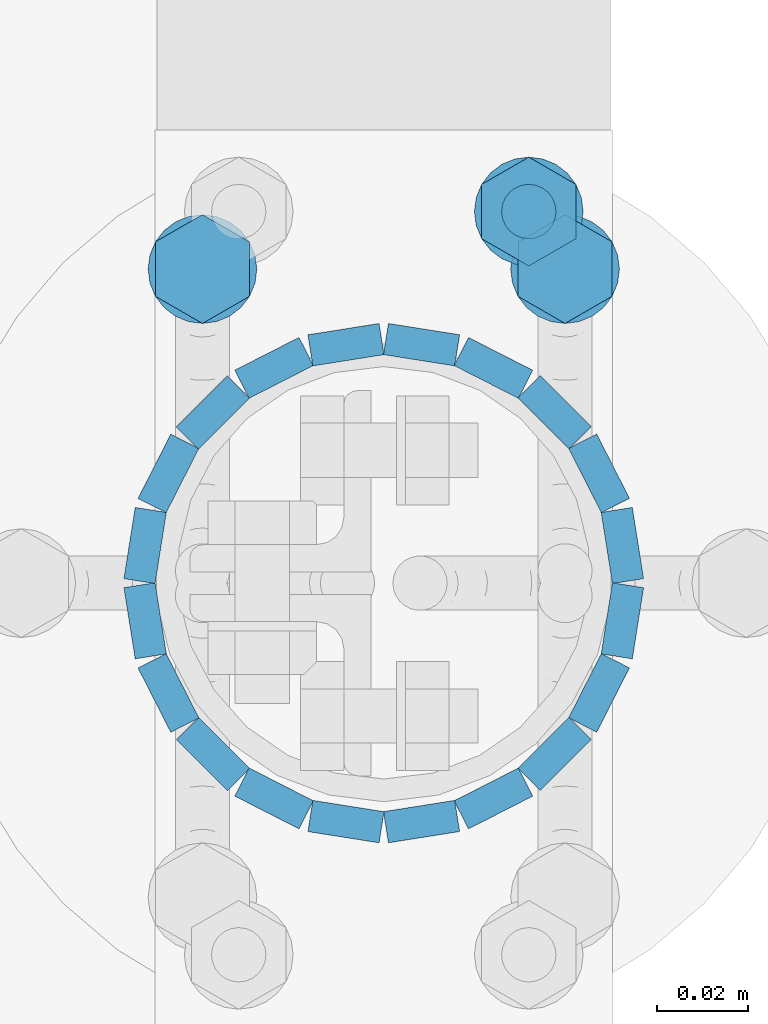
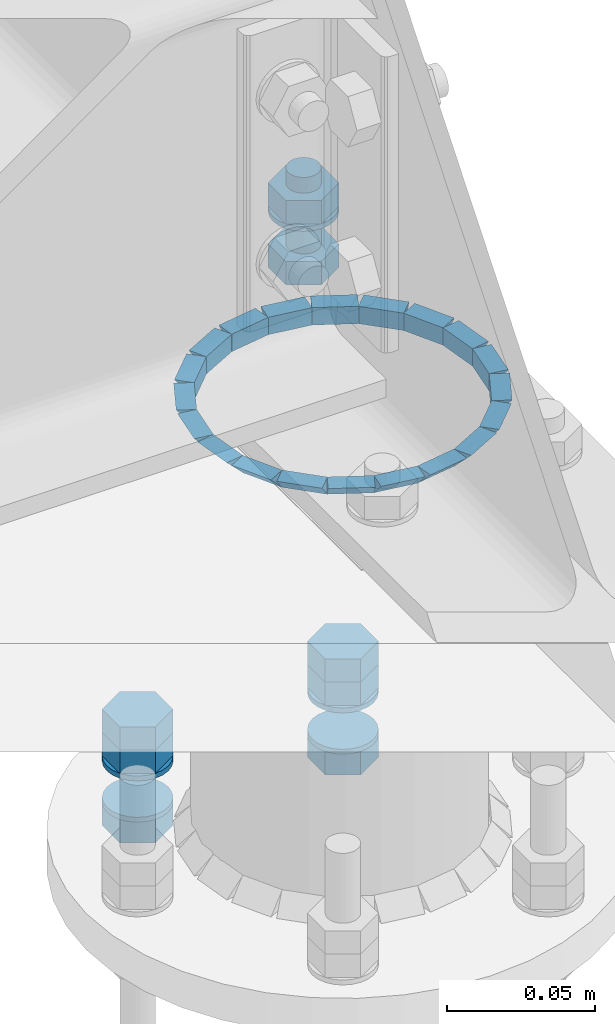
# One storey, part 82 of 84: 40 fasteners, 14 mechanical fasteners.
"""IFC4 building model written with IfcOpenShell, lengths in metres."""

from ifc_helpers import new_model, si_unit, frame, origin_with_axes, place, context, project, spatial, polyline, outline, extrude, type_object, element, save


model = new_model("IFC4")

# Units and contexts
model_context = context("Model", 3, precision=1e-05, world=origin_with_axes())
ifc_project = project(units=[si_unit("LENGTHUNIT", "METRE"), si_unit("AREAUNIT", "SQUARE_METRE"), si_unit("VOLUMEUNIT", "CUBIC_METRE"), si_unit("MASSUNIT", "GRAM", prefix="KILO"), si_unit("TIMEUNIT", "SECOND"), si_unit("PLANEANGLEUNIT", "RADIAN"), si_unit("SOLIDANGLEUNIT", "STERADIAN"), si_unit("THERMODYNAMICTEMPERATUREUNIT", "DEGREE_CELSIUS")], contexts=[model_context])

# Site, building, storey
placement_1 = place(None, origin_with_axes())
site = spatial("IfcSite", under=ifc_project, at=placement_1, Name="Italia", CompositionType="ELEMENT")
building = spatial("IfcBuilding", under=site, at=placement_1, Name="Tettoia", CompositionType="ELEMENT")
storey_placement = place(None, frame((0.0, 0.0, 4.199999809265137), z_axis=(0.0, 0.0, 1.0), x_axis=(1.0, 0.0, 0.0)))
storey = spatial("IfcBuildingStorey", under=building, at=storey_placement, Name="Storey 1", CompositionType="ELEMENT", Elevation=4.199999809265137)

# Mechanical fasteners
mechanical_fastener_type_1 = type_object("IfcMechanicalFastenerType", Name="Collegamento -015_0115", PredefinedType="BOLT")
placement_2 = place(placement_1, origin_with_axes())
mechanical_fastener_1_placement = place(placement_2, origin_with_axes())
element("IfcMechanicalFastener", 1, at=mechanical_fastener_1_placement, inside=storey, type_object=mechanical_fastener_type_1, Name="Collegamento -015_0115", NominalDiameter=0.0119991, context=model_context, shape_type="SweptSolid", body=[
    extrude(outline(polyline([(0.0, 0.0), (-0.0119991, 0.0), (-0.0179996, 0.0103922), (-0.0119991, 0.0207844), (0.0, 0.0207844), (0.00600052, 0.0103922), (0.0, 0.0)])), frame((4.12039, 19.8953, 4.017), z_axis=(0.0, 0.0, 1.0), x_axis=(0.0, 1.0, 0.0)), (0.0, 0.0, 1.0), 0.00959969),
])
mechanical_fastener_type_2 = type_object("IfcMechanicalFastenerType", Name="Collegamento -015_0115", PredefinedType="BOLT")
mechanical_fastener_2_placement = place(placement_2, origin_with_axes())
element("IfcMechanicalFastener", 2, at=mechanical_fastener_2_placement, inside=storey, type_object=mechanical_fastener_type_2, Name="Collegamento -015_0115", NominalDiameter=0.0119991, context=model_context, shape_type="SweptSolid", body=[
    extrude(outline(polyline([(0.0, 0.0), (-0.0119991, 0.0), (-0.0179996, 0.0103922), (-0.0119991, 0.0207844), (0.0, 0.0207844), (0.00600052, 0.0103922), (0.0, 0.0)])), frame((4.12039, 19.8953, 4.0266), z_axis=(0.0, 0.0, 1.0), x_axis=(0.0, 1.0, 0.0)), (0.0, 0.0, 1.0), 0.00960016),
])
mechanical_fastener_type_3 = type_object("IfcMechanicalFastenerType", Name="Collegamento -015_0115", PredefinedType="BOLT")
mechanical_fastener_3_placement = place(placement_2, origin_with_axes())
element("IfcMechanicalFastener", 3, at=mechanical_fastener_3_placement, inside=storey, type_object=mechanical_fastener_type_3, Name="Collegamento -015_0115", NominalDiameter=0.0119991, context=model_context, shape_type="SweptSolid", body=[
    extrude(outline(polyline([(0.0, 0.0), (-0.0119991, 0.0), (-0.0179996, 0.0103922), (-0.0119991, 0.0207844), (0.0, 0.0207844), (0.00600052, 0.0103922), (0.0, 0.0)])), frame((4.12039, 19.8953, 3.9884), z_axis=(0.0, 0.0, 1.0), x_axis=(0.0, 1.0, 0.0)), (0.0, 0.0, 1.0), 0.00959992),
])
mechanical_fastener_type_4 = type_object("IfcMechanicalFastenerType", Name="Collegamento -015_0115", PredefinedType="BOLT")
mechanical_fastener_4_placement = place(placement_2, origin_with_axes())
element("IfcMechanicalFastener", 4, at=mechanical_fastener_4_placement, inside=storey, type_object=mechanical_fastener_type_4, Name="Collegamento -015_0115", NominalDiameter=0.024, context=model_context, shape_type="SweptSolid", body=[
    extrude(outline(polyline([(0.0, 0.0), (-0.000408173, -0.00310564), (-0.00160599, -0.00600004), (-0.00351334, -0.00848532), (-0.00599861, -0.0103922), (-0.00889397, -0.011591), (-0.0119991, -0.0120001), (-0.0151043, -0.011591), (-0.0179996, -0.0103922), (-0.0204849, -0.00848532), (-0.0223923, -0.00600004), (-0.0235901, -0.00310564), (-0.0239983, 0.0), (-0.0235901, 0.00310564), (-0.0223923, 0.00600004), (-0.0204849, 0.00848532), (-0.0179996, 0.0103922), (-0.0151043, 0.011591), (-0.0119991, 0.0120001), (-0.00889397, 0.011591), (-0.00599861, 0.0103922), (-0.00351334, 0.00848532), (-0.00160599, 0.00600004), (-0.000408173, 0.00310564), (0.0, 0.0)])), frame((4.11, 19.9013, 4.015), z_axis=(0.0, 0.0, 1.0), x_axis=(0.0, 1.0, 0.0)), (0.0, 0.0, 1.0), 0.00200033),
])
mechanical_fastener_type_5 = type_object("IfcMechanicalFastenerType", Name="Collegamento -015_0115", PredefinedType="BOLT")
mechanical_fastener_5_placement = place(placement_2, origin_with_axes())
element("IfcMechanicalFastener", 5, at=mechanical_fastener_5_placement, inside=storey, type_object=mechanical_fastener_type_5, Name="Collegamento -015_0115", NominalDiameter=0.024, context=model_context, shape_type="SweptSolid", body=[
    extrude(outline(polyline([(0.0, 0.0), (-0.000408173, -0.00310564), (-0.00160599, -0.00600004), (-0.00351334, -0.00848532), (-0.00599861, -0.0103922), (-0.00889397, -0.011591), (-0.0119991, -0.0120001), (-0.0151043, -0.011591), (-0.0179996, -0.0103922), (-0.0204849, -0.00848532), (-0.0223923, -0.00600004), (-0.0235901, -0.00310564), (-0.0239983, 0.0), (-0.0235901, 0.00310564), (-0.0223923, 0.00600004), (-0.0204849, 0.00848532), (-0.0179996, 0.0103922), (-0.0151043, 0.011591), (-0.0119991, 0.0120001), (-0.00889397, 0.011591), (-0.00599861, 0.0103922), (-0.00351334, 0.00848532), (-0.00160599, 0.00600004), (-0.000408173, 0.00310564), (0.0, 0.0)])), frame((4.11, 19.9013, 3.998), z_axis=(0.0, 0.0, 1.0), x_axis=(0.0, 1.0, 0.0)), (0.0, 0.0, 1.0), 0.00200009),
])
mechanical_fastener_type_6 = type_object("IfcMechanicalFastenerType", Name="Collegamento -015_0115", PredefinedType="BOLT")
mechanical_fastener_6_placement = place(placement_2, origin_with_axes())
element("IfcMechanicalFastener", 6, at=mechanical_fastener_6_placement, inside=storey, type_object=mechanical_fastener_type_6, Name="Collegamento -015_0115", NominalDiameter=0.0119991, context=model_context, shape_type="SweptSolid", body=[
    extrude(outline(polyline([(0.0, 0.0), (-0.0119991, 0.0), (-0.0179996, 0.0103922), (-0.0119991, 0.0207844), (0.0, 0.0207844), (0.00600052, 0.0103922), (0.0, 0.0)])), frame((4.04039, 19.8953, 4.017), z_axis=(0.0, 0.0, 1.0), x_axis=(0.0, 1.0, 0.0)), (0.0, 0.0, 1.0), 0.00959969),
])
mechanical_fastener_type_7 = type_object("IfcMechanicalFastenerType", Name="Collegamento -015_0115", PredefinedType="BOLT")
mechanical_fastener_7_placement = place(placement_2, origin_with_axes())
element("IfcMechanicalFastener", 7, at=mechanical_fastener_7_placement, inside=storey, type_object=mechanical_fastener_type_7, Name="Collegamento -015_0115", NominalDiameter=0.0119991, context=model_context, shape_type="SweptSolid", body=[
    extrude(outline(polyline([(0.0, 0.0), (-0.0119991, 0.0), (-0.0179996, 0.0103922), (-0.0119991, 0.0207844), (0.0, 0.0207844), (0.00600052, 0.0103922), (0.0, 0.0)])), frame((4.04039, 19.8953, 4.0266), z_axis=(0.0, 0.0, 1.0), x_axis=(0.0, 1.0, 0.0)), (0.0, 0.0, 1.0), 0.00960016),
])
mechanical_fastener_type_8 = type_object("IfcMechanicalFastenerType", Name="Collegamento -015_0115", PredefinedType="BOLT")
mechanical_fastener_8_placement = place(placement_2, origin_with_axes())
element("IfcMechanicalFastener", 8, at=mechanical_fastener_8_placement, inside=storey, type_object=mechanical_fastener_type_8, Name="Collegamento -015_0115", NominalDiameter=0.0119991, context=model_context, shape_type="SweptSolid", body=[
    extrude(outline(polyline([(0.0, 0.0), (-0.0119991, 0.0), (-0.0179996, 0.0103922), (-0.0119991, 0.0207844), (0.0, 0.0207844), (0.00600052, 0.0103922), (0.0, 0.0)])), frame((4.04039, 19.8953, 3.9884), z_axis=(0.0, 0.0, 1.0), x_axis=(0.0, 1.0, 0.0)), (0.0, 0.0, 1.0), 0.00959992),
])
mechanical_fastener_type_9 = type_object("IfcMechanicalFastenerType", Name="Collegamento -015_0115", PredefinedType="BOLT")
mechanical_fastener_9_placement = place(placement_2, origin_with_axes())
element("IfcMechanicalFastener", 9, at=mechanical_fastener_9_placement, inside=storey, type_object=mechanical_fastener_type_9, Name="Collegamento -015_0115", NominalDiameter=0.024, context=model_context, shape_type="SweptSolid", body=[
    extrude(outline(polyline([(0.0, 0.0), (-0.000408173, -0.00310564), (-0.00160599, -0.00600004), (-0.00351334, -0.00848532), (-0.00599861, -0.0103922), (-0.00889397, -0.011591), (-0.0119991, -0.0120001), (-0.0151043, -0.011591), (-0.0179996, -0.0103922), (-0.0204849, -0.00848532), (-0.0223923, -0.00600004), (-0.0235901, -0.00310564), (-0.0239983, 0.0), (-0.0235901, 0.00310564), (-0.0223923, 0.00600004), (-0.0204849, 0.00848532), (-0.0179996, 0.0103922), (-0.0151043, 0.011591), (-0.0119991, 0.0120001), (-0.00889397, 0.011591), (-0.00599861, 0.0103922), (-0.00351334, 0.00848532), (-0.00160599, 0.00600004), (-0.000408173, 0.00310564), (0.0, 0.0)])), frame((4.03, 19.9013, 4.015), z_axis=(0.0, 0.0, 1.0), x_axis=(0.0, 1.0, 0.0)), (0.0, 0.0, 1.0), 0.00200033),
])
mechanical_fastener_type_10 = type_object("IfcMechanicalFastenerType", Name="Collegamento -015_0115", PredefinedType="BOLT")
mechanical_fastener_10_placement = place(placement_2, origin_with_axes())
element("IfcMechanicalFastener", 10, at=mechanical_fastener_10_placement, inside=storey, type_object=mechanical_fastener_type_10, Name="Collegamento -015_0115", NominalDiameter=0.024, context=model_context, shape_type="SweptSolid", body=[
    extrude(outline(polyline([(0.0, 0.0), (-0.000408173, -0.00310564), (-0.00160599, -0.00600004), (-0.00351334, -0.00848532), (-0.00599861, -0.0103922), (-0.00889397, -0.011591), (-0.0119991, -0.0120001), (-0.0151043, -0.011591), (-0.0179996, -0.0103922), (-0.0204849, -0.00848532), (-0.0223923, -0.00600004), (-0.0235901, -0.00310564), (-0.0239983, 0.0), (-0.0235901, 0.00310564), (-0.0223923, 0.00600004), (-0.0204849, 0.00848532), (-0.0179996, 0.0103922), (-0.0151043, 0.011591), (-0.0119991, 0.0120001), (-0.00889397, 0.011591), (-0.00599861, 0.0103922), (-0.00351334, 0.00848532), (-0.00160599, 0.00600004), (-0.000408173, 0.00310564), (0.0, 0.0)])), frame((4.03, 19.9013, 3.998), z_axis=(0.0, 0.0, 1.0), x_axis=(0.0, 1.0, 0.0)), (0.0, 0.0, 1.0), 0.00200009),
])

# Fasteners
fastener_type_1 = type_object("IfcFastenerType", Name="Collegamento 0115_-015", PredefinedType="WELD")
fastener_1_placement = place(placement_2, origin_with_axes())
element("IfcFastener", 11, at=fastener_1_placement, inside=storey, type_object=fastener_type_1, Name="Collegamento 0115_-015", context=model_context, shape_type="SweptSolid", body=[
    extrude(outline(polyline([(0.0, 0.0), (-0.00695801, -0.00717354), (-0.00695801, 0.0), (0.0, 0.0)])), frame((4.07103, 19.8773, 4.19505), z_axis=(0.987689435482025, -0.156427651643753, 0.0), x_axis=(0.156427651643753, 0.987689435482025, 0.0)), (0.0, 0.0, 1.0), 0.0158999),
])
fastener_type_2 = type_object("IfcFastenerType", Name="Collegamento 0115_-015", PredefinedType="WELD")
fastener_2_placement = place(placement_2, origin_with_axes())
element("IfcFastener", 12, at=fastener_2_placement, inside=storey, type_object=fastener_type_2, Name="Collegamento 0115_-015", context=model_context, shape_type="SweptSolid", body=[
    extrude(outline(polyline([(0.0, 0.0), (-0.00695801, -0.00717354), (-0.00695801, 0.0), (0.0, 0.0)])), frame((4.0887, 19.8742, 4.19505), z_axis=(0.890982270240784, -0.454038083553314, 0.0), x_axis=(0.454038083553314, 0.890982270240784, 0.0)), (0.0, 0.0, 1.0), 0.0159002),
])
fastener_type_3 = type_object("IfcFastenerType", Name="Collegamento 0115_-015", PredefinedType="WELD")
fastener_3_placement = place(placement_2, origin_with_axes())
element("IfcFastener", 13, at=fastener_3_placement, inside=storey, type_object=fastener_type_3, Name="Collegamento 0115_-015", context=model_context, shape_type="SweptSolid", body=[
    extrude(outline(polyline([(0.0, 0.0), (-0.00695801, -0.00717354), (-0.00695801, 0.0), (0.0, 0.0)])), frame((4.10453, 19.8658, 4.19505), z_axis=(0.707136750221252, -0.707076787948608, 0.0), x_axis=(0.707076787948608, 0.707136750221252, 0.0)), (0.0, 0.0, 1.0), 0.0158991),
])
fastener_type_4 = type_object("IfcFastenerType", Name="Collegamento 0115_-015", PredefinedType="WELD")
fastener_4_placement = place(placement_2, origin_with_axes())
element("IfcFastener", 14, at=fastener_4_placement, inside=storey, type_object=fastener_type_4, Name="Collegamento 0115_-015", context=model_context, shape_type="SweptSolid", body=[
    extrude(outline(polyline([(0.0, 0.0), (-0.00695801, -0.00717354), (-0.00695801, 0.0), (0.0, 0.0)])), frame((4.11699, 19.8529, 4.19505), z_axis=(0.453966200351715, -0.891018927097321, 0.0), x_axis=(0.891018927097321, 0.453966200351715, 0.0)), (0.0, 0.0, 1.0), 0.0159007),
])
fastener_type_5 = type_object("IfcFastenerType", Name="Collegamento 0115_-015", PredefinedType="WELD")
fastener_5_placement = place(placement_2, origin_with_axes())
element("IfcFastener", 15, at=fastener_5_placement, inside=storey, type_object=fastener_type_5, Name="Collegamento 0115_-015", context=model_context, shape_type="SweptSolid", body=[
    extrude(outline(polyline([(0.0, 0.0), (-0.00695753, -0.00717354), (-0.00695753, 0.0), (0.0, 0.0)])), frame((4.12484, 19.8367, 4.19505), z_axis=(0.156436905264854, -0.987687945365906, 0.0), x_axis=(0.987687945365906, 0.156436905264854, 0.0)), (0.0, 0.0, 1.0), 0.015899),
])
fastener_type_6 = type_object("IfcFastenerType", Name="Collegamento 0115_-015", PredefinedType="WELD")
fastener_6_placement = place(placement_2, origin_with_axes())
element("IfcFastener", 16, at=fastener_6_placement, inside=storey, type_object=fastener_type_6, Name="Collegamento 0115_-015", context=model_context, shape_type="SweptSolid", body=[
    extrude(outline(polyline([(0.0, 0.0), (-0.00695801, -0.00717354), (-0.00695801, 0.0), (0.0, 0.0)])), frame((4.12733, 19.819, 4.19505), z_axis=(-0.156436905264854, -0.987687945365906, 0.0), x_axis=(0.987687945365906, -0.156436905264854, 0.0)), (0.0, 0.0, 1.0), 0.015899),
])
fastener_type_7 = type_object("IfcFastenerType", Name="Collegamento 0115_-015", PredefinedType="WELD")
fastener_7_placement = place(placement_2, origin_with_axes())
element("IfcFastener", 17, at=fastener_7_placement, inside=storey, type_object=fastener_type_7, Name="Collegamento 0115_-015", context=model_context, shape_type="SweptSolid", body=[
    extrude(outline(polyline([(0.0, 0.0), (-0.00695848, -0.00717354), (-0.00695848, 0.0), (0.0, 0.0)])), frame((4.12421, 19.8013, 4.19505), z_axis=(-0.453966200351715, -0.891018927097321, 0.0), x_axis=(0.891018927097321, -0.453966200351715, 0.0)), (0.0, 0.0, 1.0), 0.0159007),
])
fastener_type_8 = type_object("IfcFastenerType", Name="Collegamento 0115_-015", PredefinedType="WELD")
fastener_8_placement = place(placement_2, origin_with_axes())
element("IfcFastener", 18, at=fastener_8_placement, inside=storey, type_object=fastener_type_8, Name="Collegamento 0115_-015", context=model_context, shape_type="SweptSolid", body=[
    extrude(outline(polyline([(0.0, 0.0), (-0.00695896, -0.00717354), (-0.00695896, 0.0), (0.0, 0.0)])), frame((4.11578, 19.7855, 4.19505), z_axis=(-0.707136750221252, -0.707076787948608, 0.0), x_axis=(0.707076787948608, -0.707136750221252, 0.0)), (0.0, 0.0, 1.0), 0.0158991),
])
fastener_type_9 = type_object("IfcFastenerType", Name="Collegamento 0115_-015", PredefinedType="WELD")
fastener_9_placement = place(placement_2, origin_with_axes())
element("IfcFastener", 19, at=fastener_9_placement, inside=storey, type_object=fastener_type_9, Name="Collegamento 0115_-015", context=model_context, shape_type="SweptSolid", body=[
    extrude(outline(polyline([(0.0, 0.0), (-0.00695801, -0.00717354), (-0.00695801, 0.0), (0.0, 0.0)])), frame((4.10286, 19.773, 4.19505), z_axis=(-0.890982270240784, -0.454038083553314, 0.0), x_axis=(0.454038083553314, -0.890982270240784, 0.0)), (0.0, 0.0, 1.0), 0.0159002),
])
fastener_type_10 = type_object("IfcFastenerType", Name="Collegamento 0115_-015", PredefinedType="WELD")
fastener_10_placement = place(placement_2, origin_with_axes())
element("IfcFastener", 20, at=fastener_10_placement, inside=storey, type_object=fastener_type_10, Name="Collegamento 0115_-015", context=model_context, shape_type="SweptSolid", body=[
    extrude(outline(polyline([(0.0, 0.0), (-0.00695801, -0.00717354), (-0.00695801, 0.0), (0.0, 0.0)])), frame((4.08674, 19.7652, 4.19505), z_axis=(-0.987689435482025, -0.156427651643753, 0.0), x_axis=(0.156427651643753, -0.987689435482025, 0.0)), (0.0, 0.0, 1.0), 0.0158999),
])
fastener_type_11 = type_object("IfcFastenerType", Name="Collegamento 0115_-015", PredefinedType="WELD")
fastener_11_placement = place(placement_2, origin_with_axes())
element("IfcFastener", 21, at=fastener_11_placement, inside=storey, type_object=fastener_type_11, Name="Collegamento 0115_-015", context=model_context, shape_type="SweptSolid", body=[
    extrude(outline(polyline([(0.0, 0.0), (-0.00695801, -0.00717354), (-0.00695801, 0.0), (0.0, 0.0)])), frame((4.06897, 19.7627, 4.19505), z_axis=(-0.987689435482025, 0.156427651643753, 0.0), x_axis=(-0.156427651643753, -0.987689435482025, 0.0)), (0.0, 0.0, 1.0), 0.0158999),
])
fastener_type_12 = type_object("IfcFastenerType", Name="Collegamento 0115_-015", PredefinedType="WELD")
fastener_12_placement = place(placement_2, origin_with_axes())
element("IfcFastener", 22, at=fastener_12_placement, inside=storey, type_object=fastener_type_12, Name="Collegamento 0115_-015", context=model_context, shape_type="SweptSolid", body=[
    extrude(outline(polyline([(0.0, 0.0), (-0.0069561, -0.00717354), (-0.0069561, 0.0), (0.0, 0.0)])), frame((4.0513, 19.7658, 4.19505), z_axis=(-0.890982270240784, 0.454038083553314, 0.0), x_axis=(-0.454038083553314, -0.890982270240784, 0.0)), (0.0, 0.0, 1.0), 0.0159002),
])
fastener_type_13 = type_object("IfcFastenerType", Name="Collegamento 0115_-015", PredefinedType="WELD")
fastener_13_placement = place(placement_2, origin_with_axes())
element("IfcFastener", 23, at=fastener_13_placement, inside=storey, type_object=fastener_type_13, Name="Collegamento 0115_-015", context=model_context, shape_type="SweptSolid", body=[
    extrude(outline(polyline([(0.0, 0.0), (-0.00695801, -0.00717354), (-0.00695801, 0.0), (0.0, 0.0)])), frame((4.03547, 19.7742, 4.19505), z_axis=(-0.707136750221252, 0.707076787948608, 0.0), x_axis=(-0.707076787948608, -0.707136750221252, 0.0)), (0.0, 0.0, 1.0), 0.0158991),
])
fastener_type_14 = type_object("IfcFastenerType", Name="Collegamento 0115_-015", PredefinedType="WELD")
fastener_14_placement = place(placement_2, origin_with_axes())
element("IfcFastener", 24, at=fastener_14_placement, inside=storey, type_object=fastener_type_14, Name="Collegamento 0115_-015", context=model_context, shape_type="SweptSolid", body=[
    extrude(outline(polyline([(0.0, 0.0), (-0.00695896, -0.00717354), (-0.00695896, 0.0), (0.0, 0.0)])), frame((4.02301, 19.7871, 4.19505), z_axis=(-0.453966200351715, 0.891018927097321, 0.0), x_axis=(-0.891018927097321, -0.453966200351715, 0.0)), (0.0, 0.0, 1.0), 0.0159007),
])
fastener_type_15 = type_object("IfcFastenerType", Name="Collegamento 0115_-015", PredefinedType="WELD")
fastener_15_placement = place(placement_2, origin_with_axes())
element("IfcFastener", 25, at=fastener_15_placement, inside=storey, type_object=fastener_type_15, Name="Collegamento 0115_-015", context=model_context, shape_type="SweptSolid", body=[
    extrude(outline(polyline([(0.0, 0.0), (-0.00695801, -0.00717354), (-0.00695801, 0.0), (0.0, 0.0)])), frame((4.01516, 19.8033, 4.19505), z_axis=(-0.156436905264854, 0.987687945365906, 0.0), x_axis=(-0.987687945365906, -0.156436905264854, 0.0)), (0.0, 0.0, 1.0), 0.015899),
])
fastener_type_16 = type_object("IfcFastenerType", Name="Collegamento 0115_-015", PredefinedType="WELD")
fastener_16_placement = place(placement_2, origin_with_axes())
element("IfcFastener", 26, at=fastener_16_placement, inside=storey, type_object=fastener_type_16, Name="Collegamento 0115_-015", context=model_context, shape_type="SweptSolid", body=[
    extrude(outline(polyline([(0.0, 0.0), (-0.00695848, -0.00717354), (-0.00695848, 0.0), (0.0, 0.0)])), frame((4.01267, 19.821, 4.19505), z_axis=(0.156436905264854, 0.987687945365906, 0.0), x_axis=(-0.987687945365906, 0.156436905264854, 0.0)), (0.0, 0.0, 1.0), 0.015899),
])
fastener_type_17 = type_object("IfcFastenerType", Name="Collegamento 0115_-015", PredefinedType="WELD")
fastener_17_placement = place(placement_2, origin_with_axes())
element("IfcFastener", 27, at=fastener_17_placement, inside=storey, type_object=fastener_type_17, Name="Collegamento 0115_-015", context=model_context, shape_type="SweptSolid", body=[
    extrude(outline(polyline([(0.0, 0.0), (-0.00695753, -0.00717354), (-0.00695753, 0.0), (0.0, 0.0)])), frame((4.01579, 19.8387, 4.19505), z_axis=(0.453966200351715, 0.891018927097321, 0.0), x_axis=(-0.891018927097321, 0.453966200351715, 0.0)), (0.0, 0.0, 1.0), 0.0159007),
])
fastener_type_18 = type_object("IfcFastenerType", Name="Collegamento 0115_-015", PredefinedType="WELD")
fastener_18_placement = place(placement_2, origin_with_axes())
element("IfcFastener", 28, at=fastener_18_placement, inside=storey, type_object=fastener_type_18, Name="Collegamento 0115_-015", context=model_context, shape_type="SweptSolid", body=[
    extrude(outline(polyline([(0.0, 0.0), (-0.00695801, -0.00717354), (-0.00695801, 0.0), (0.0, 0.0)])), frame((4.02422, 19.8545, 4.19505), z_axis=(0.707136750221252, 0.707076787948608, 0.0), x_axis=(-0.707076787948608, 0.707136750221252, 0.0)), (0.0, 0.0, 1.0), 0.0158991),
])
fastener_type_19 = type_object("IfcFastenerType", Name="Collegamento 0115_-015", PredefinedType="WELD")
fastener_19_placement = place(placement_2, origin_with_axes())
element("IfcFastener", 29, at=fastener_19_placement, inside=storey, type_object=fastener_type_19, Name="Collegamento 0115_-015", context=model_context, shape_type="SweptSolid", body=[
    extrude(outline(polyline([(0.0, 0.0), (-0.00695801, -0.00717354), (-0.00695801, 0.0), (0.0, 0.0)])), frame((4.03714, 19.867, 4.19505), z_axis=(0.890982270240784, 0.454038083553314, 0.0), x_axis=(-0.454038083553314, 0.890982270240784, 0.0)), (0.0, 0.0, 1.0), 0.0159002),
])
fastener_type_20 = type_object("IfcFastenerType", Name="Collegamento 0115_-015", PredefinedType="WELD")
fastener_20_placement = place(placement_2, origin_with_axes())
element("IfcFastener", 30, at=fastener_20_placement, inside=storey, type_object=fastener_type_20, Name="Collegamento 0115_-015", context=model_context, shape_type="SweptSolid", body=[
    extrude(outline(polyline([(0.0, 0.0), (-0.0069561, -0.00717354), (-0.0069561, 0.0), (0.0, 0.0)])), frame((4.05326, 19.8748, 4.19505), z_axis=(0.987689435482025, 0.156427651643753, 0.0), x_axis=(-0.156427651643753, 0.987689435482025, 0.0)), (0.0, 0.0, 1.0), 0.0158999),
])
fastener_type_21 = type_object("IfcFastenerType", Name="Collegamento 0115_-015", PredefinedType="WELD")
fastener_21_placement = place(placement_2, origin_with_axes())
element("IfcFastener", 31, at=fastener_21_placement, inside=storey, type_object=fastener_type_21, Name="Collegamento 0115_-015", context=model_context, shape_type="SweptSolid", body=[
    extrude(outline(polyline([(0.0, 0.0), (-0.00695801, -0.00717354), (-0.00695801, 0.0), (0.0, 0.0)])), frame((4.07103, 19.8773, 4.19505), z_axis=(0.987689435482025, -0.156427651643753, 0.0), x_axis=(0.156427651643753, 0.987689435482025, 0.0)), (0.0, 0.0, 1.0), 0.0158999),
])
fastener_type_22 = type_object("IfcFastenerType", Name="Collegamento 0115_-015", PredefinedType="WELD")
fastener_22_placement = place(placement_2, origin_with_axes())
element("IfcFastener", 32, at=fastener_22_placement, inside=storey, type_object=fastener_type_22, Name="Collegamento 0115_-015", context=model_context, shape_type="SweptSolid", body=[
    extrude(outline(polyline([(0.0, 0.0), (-0.00695801, -0.00717354), (-0.00695801, 0.0), (0.0, 0.0)])), frame((4.0887, 19.8742, 4.19505), z_axis=(0.890982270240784, -0.454038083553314, 0.0), x_axis=(0.454038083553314, 0.890982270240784, 0.0)), (0.0, 0.0, 1.0), 0.0159002),
])
fastener_type_23 = type_object("IfcFastenerType", Name="Collegamento 0115_-015", PredefinedType="WELD")
fastener_23_placement = place(placement_2, origin_with_axes())
element("IfcFastener", 33, at=fastener_23_placement, inside=storey, type_object=fastener_type_23, Name="Collegamento 0115_-015", context=model_context, shape_type="SweptSolid", body=[
    extrude(outline(polyline([(0.0, 0.0), (-0.00695801, -0.00717354), (-0.00695801, 0.0), (0.0, 0.0)])), frame((4.10453, 19.8658, 4.19505), z_axis=(0.707136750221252, -0.707076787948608, 0.0), x_axis=(0.707076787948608, 0.707136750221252, 0.0)), (0.0, 0.0, 1.0), 0.0158991),
])
fastener_type_24 = type_object("IfcFastenerType", Name="Collegamento 0115_-015", PredefinedType="WELD")
fastener_24_placement = place(placement_2, origin_with_axes())
element("IfcFastener", 34, at=fastener_24_placement, inside=storey, type_object=fastener_type_24, Name="Collegamento 0115_-015", context=model_context, shape_type="SweptSolid", body=[
    extrude(outline(polyline([(0.0, 0.0), (-0.00695801, -0.00717354), (-0.00695801, 0.0), (0.0, 0.0)])), frame((4.11699, 19.8529, 4.19505), z_axis=(0.453966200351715, -0.891018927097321, 0.0), x_axis=(0.891018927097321, 0.453966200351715, 0.0)), (0.0, 0.0, 1.0), 0.0159007),
])
fastener_type_25 = type_object("IfcFastenerType", Name="Collegamento 0115_-015", PredefinedType="WELD")
fastener_25_placement = place(placement_2, origin_with_axes())
element("IfcFastener", 35, at=fastener_25_placement, inside=storey, type_object=fastener_type_25, Name="Collegamento 0115_-015", context=model_context, shape_type="SweptSolid", body=[
    extrude(outline(polyline([(0.0, 0.0), (-0.00695753, -0.00717354), (-0.00695753, 0.0), (0.0, 0.0)])), frame((4.12484, 19.8367, 4.19505), z_axis=(0.156436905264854, -0.987687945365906, 0.0), x_axis=(0.987687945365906, 0.156436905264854, 0.0)), (0.0, 0.0, 1.0), 0.015899),
])
fastener_type_26 = type_object("IfcFastenerType", Name="Collegamento 0115_-015", PredefinedType="WELD")
fastener_26_placement = place(placement_2, origin_with_axes())
element("IfcFastener", 36, at=fastener_26_placement, inside=storey, type_object=fastener_type_26, Name="Collegamento 0115_-015", context=model_context, shape_type="SweptSolid", body=[
    extrude(outline(polyline([(0.0, 0.0), (-0.00695801, -0.00717354), (-0.00695801, 0.0), (0.0, 0.0)])), frame((4.12733, 19.819, 4.19505), z_axis=(-0.156436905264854, -0.987687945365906, 0.0), x_axis=(0.987687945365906, -0.156436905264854, 0.0)), (0.0, 0.0, 1.0), 0.015899),
])
fastener_type_27 = type_object("IfcFastenerType", Name="Collegamento 0115_-015", PredefinedType="WELD")
fastener_27_placement = place(placement_2, origin_with_axes())
element("IfcFastener", 37, at=fastener_27_placement, inside=storey, type_object=fastener_type_27, Name="Collegamento 0115_-015", context=model_context, shape_type="SweptSolid", body=[
    extrude(outline(polyline([(0.0, 0.0), (-0.00695848, -0.00717354), (-0.00695848, 0.0), (0.0, 0.0)])), frame((4.12421, 19.8013, 4.19505), z_axis=(-0.453966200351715, -0.891018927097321, 0.0), x_axis=(0.891018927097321, -0.453966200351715, 0.0)), (0.0, 0.0, 1.0), 0.0159007),
])
fastener_type_28 = type_object("IfcFastenerType", Name="Collegamento 0115_-015", PredefinedType="WELD")
fastener_28_placement = place(placement_2, origin_with_axes())
element("IfcFastener", 38, at=fastener_28_placement, inside=storey, type_object=fastener_type_28, Name="Collegamento 0115_-015", context=model_context, shape_type="SweptSolid", body=[
    extrude(outline(polyline([(0.0, 0.0), (-0.00695896, -0.00717354), (-0.00695896, 0.0), (0.0, 0.0)])), frame((4.11578, 19.7855, 4.19505), z_axis=(-0.707136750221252, -0.707076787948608, 0.0), x_axis=(0.707076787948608, -0.707136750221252, 0.0)), (0.0, 0.0, 1.0), 0.0158991),
])
fastener_type_29 = type_object("IfcFastenerType", Name="Collegamento 0115_-015", PredefinedType="WELD")
fastener_29_placement = place(placement_2, origin_with_axes())
element("IfcFastener", 39, at=fastener_29_placement, inside=storey, type_object=fastener_type_29, Name="Collegamento 0115_-015", context=model_context, shape_type="SweptSolid", body=[
    extrude(outline(polyline([(0.0, 0.0), (-0.00695801, -0.00717354), (-0.00695801, 0.0), (0.0, 0.0)])), frame((4.10286, 19.773, 4.19505), z_axis=(-0.890982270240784, -0.454038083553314, 0.0), x_axis=(0.454038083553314, -0.890982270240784, 0.0)), (0.0, 0.0, 1.0), 0.0159002),
])
fastener_type_30 = type_object("IfcFastenerType", Name="Collegamento 0115_-015", PredefinedType="WELD")
fastener_30_placement = place(placement_2, origin_with_axes())
element("IfcFastener", 40, at=fastener_30_placement, inside=storey, type_object=fastener_type_30, Name="Collegamento 0115_-015", context=model_context, shape_type="SweptSolid", body=[
    extrude(outline(polyline([(0.0, 0.0), (-0.00695801, -0.00717354), (-0.00695801, 0.0), (0.0, 0.0)])), frame((4.08674, 19.7652, 4.19505), z_axis=(-0.987689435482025, -0.156427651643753, 0.0), x_axis=(0.156427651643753, -0.987689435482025, 0.0)), (0.0, 0.0, 1.0), 0.0158999),
])
fastener_type_31 = type_object("IfcFastenerType", Name="Collegamento 0115_-015", PredefinedType="WELD")
fastener_31_placement = place(placement_2, origin_with_axes())
element("IfcFastener", 41, at=fastener_31_placement, inside=storey, type_object=fastener_type_31, Name="Collegamento 0115_-015", context=model_context, shape_type="SweptSolid", body=[
    extrude(outline(polyline([(0.0, 0.0), (-0.00695801, -0.00717354), (-0.00695801, 0.0), (0.0, 0.0)])), frame((4.06897, 19.7627, 4.19505), z_axis=(-0.987689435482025, 0.156427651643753, 0.0), x_axis=(-0.156427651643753, -0.987689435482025, 0.0)), (0.0, 0.0, 1.0), 0.0158999),
])
fastener_type_32 = type_object("IfcFastenerType", Name="Collegamento 0115_-015", PredefinedType="WELD")
fastener_32_placement = place(placement_2, origin_with_axes())
element("IfcFastener", 42, at=fastener_32_placement, inside=storey, type_object=fastener_type_32, Name="Collegamento 0115_-015", context=model_context, shape_type="SweptSolid", body=[
    extrude(outline(polyline([(0.0, 0.0), (-0.0069561, -0.00717354), (-0.0069561, 0.0), (0.0, 0.0)])), frame((4.0513, 19.7658, 4.19505), z_axis=(-0.890982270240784, 0.454038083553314, 0.0), x_axis=(-0.454038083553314, -0.890982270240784, 0.0)), (0.0, 0.0, 1.0), 0.0159002),
])
fastener_type_33 = type_object("IfcFastenerType", Name="Collegamento 0115_-015", PredefinedType="WELD")
fastener_33_placement = place(placement_2, origin_with_axes())
element("IfcFastener", 43, at=fastener_33_placement, inside=storey, type_object=fastener_type_33, Name="Collegamento 0115_-015", context=model_context, shape_type="SweptSolid", body=[
    extrude(outline(polyline([(0.0, 0.0), (-0.00695801, -0.00717354), (-0.00695801, 0.0), (0.0, 0.0)])), frame((4.03547, 19.7742, 4.19505), z_axis=(-0.707136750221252, 0.707076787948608, 0.0), x_axis=(-0.707076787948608, -0.707136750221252, 0.0)), (0.0, 0.0, 1.0), 0.0158991),
])
fastener_type_34 = type_object("IfcFastenerType", Name="Collegamento 0115_-015", PredefinedType="WELD")
fastener_34_placement = place(placement_2, origin_with_axes())
element("IfcFastener", 44, at=fastener_34_placement, inside=storey, type_object=fastener_type_34, Name="Collegamento 0115_-015", context=model_context, shape_type="SweptSolid", body=[
    extrude(outline(polyline([(0.0, 0.0), (-0.00695896, -0.00717354), (-0.00695896, 0.0), (0.0, 0.0)])), frame((4.02301, 19.7871, 4.19505), z_axis=(-0.453966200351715, 0.891018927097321, 0.0), x_axis=(-0.891018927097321, -0.453966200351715, 0.0)), (0.0, 0.0, 1.0), 0.0159007),
])
fastener_type_35 = type_object("IfcFastenerType", Name="Collegamento 0115_-015", PredefinedType="WELD")
fastener_35_placement = place(placement_2, origin_with_axes())
element("IfcFastener", 45, at=fastener_35_placement, inside=storey, type_object=fastener_type_35, Name="Collegamento 0115_-015", context=model_context, shape_type="SweptSolid", body=[
    extrude(outline(polyline([(0.0, 0.0), (-0.00695801, -0.00717354), (-0.00695801, 0.0), (0.0, 0.0)])), frame((4.01516, 19.8033, 4.19505), z_axis=(-0.156436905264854, 0.987687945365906, 0.0), x_axis=(-0.987687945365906, -0.156436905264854, 0.0)), (0.0, 0.0, 1.0), 0.015899),
])
fastener_type_36 = type_object("IfcFastenerType", Name="Collegamento 0115_-015", PredefinedType="WELD")
fastener_36_placement = place(placement_2, origin_with_axes())
element("IfcFastener", 46, at=fastener_36_placement, inside=storey, type_object=fastener_type_36, Name="Collegamento 0115_-015", context=model_context, shape_type="SweptSolid", body=[
    extrude(outline(polyline([(0.0, 0.0), (-0.00695848, -0.00717354), (-0.00695848, 0.0), (0.0, 0.0)])), frame((4.01267, 19.821, 4.19505), z_axis=(0.156436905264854, 0.987687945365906, 0.0), x_axis=(-0.987687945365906, 0.156436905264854, 0.0)), (0.0, 0.0, 1.0), 0.015899),
])
fastener_type_37 = type_object("IfcFastenerType", Name="Collegamento 0115_-015", PredefinedType="WELD")
fastener_37_placement = place(placement_2, origin_with_axes())
element("IfcFastener", 47, at=fastener_37_placement, inside=storey, type_object=fastener_type_37, Name="Collegamento 0115_-015", context=model_context, shape_type="SweptSolid", body=[
    extrude(outline(polyline([(0.0, 0.0), (-0.00695753, -0.00717354), (-0.00695753, 0.0), (0.0, 0.0)])), frame((4.01579, 19.8387, 4.19505), z_axis=(0.453966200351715, 0.891018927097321, 0.0), x_axis=(-0.891018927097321, 0.453966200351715, 0.0)), (0.0, 0.0, 1.0), 0.0159007),
])
fastener_type_38 = type_object("IfcFastenerType", Name="Collegamento 0115_-015", PredefinedType="WELD")
fastener_38_placement = place(placement_2, origin_with_axes())
element("IfcFastener", 48, at=fastener_38_placement, inside=storey, type_object=fastener_type_38, Name="Collegamento 0115_-015", context=model_context, shape_type="SweptSolid", body=[
    extrude(outline(polyline([(0.0, 0.0), (-0.00695801, -0.00717354), (-0.00695801, 0.0), (0.0, 0.0)])), frame((4.02422, 19.8545, 4.19505), z_axis=(0.707136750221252, 0.707076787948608, 0.0), x_axis=(-0.707076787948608, 0.707136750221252, 0.0)), (0.0, 0.0, 1.0), 0.0158991),
])
fastener_type_39 = type_object("IfcFastenerType", Name="Collegamento 0115_-015", PredefinedType="WELD")
fastener_39_placement = place(placement_2, origin_with_axes())
element("IfcFastener", 49, at=fastener_39_placement, inside=storey, type_object=fastener_type_39, Name="Collegamento 0115_-015", context=model_context, shape_type="SweptSolid", body=[
    extrude(outline(polyline([(0.0, 0.0), (-0.00695801, -0.00717354), (-0.00695801, 0.0), (0.0, 0.0)])), frame((4.03714, 19.867, 4.19505), z_axis=(0.890982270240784, 0.454038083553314, 0.0), x_axis=(-0.454038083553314, 0.890982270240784, 0.0)), (0.0, 0.0, 1.0), 0.0159002),
])
fastener_type_40 = type_object("IfcFastenerType", Name="Collegamento 0115_-015", PredefinedType="WELD")
fastener_40_placement = place(placement_2, origin_with_axes())
element("IfcFastener", 50, at=fastener_40_placement, inside=storey, type_object=fastener_type_40, Name="Collegamento 0115_-015", context=model_context, shape_type="SweptSolid", body=[
    extrude(outline(polyline([(0.0, 0.0), (-0.0069561, -0.00717354), (-0.0069561, 0.0), (0.0, 0.0)])), frame((4.05326, 19.8748, 4.19505), z_axis=(0.987689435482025, 0.156427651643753, 0.0), x_axis=(-0.156427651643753, 0.987689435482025, 0.0)), (0.0, 0.0, 1.0), 0.0158999),
])

# Mechanical fasteners
mechanical_fastener_type_11 = type_object("IfcMechanicalFastenerType", Name="Collegamento 0115_-015", PredefinedType="BOLT")
mechanical_fastener_11_placement = place(placement_2, origin_with_axes())
element("IfcMechanicalFastener", 51, at=mechanical_fastener_11_placement, inside=storey, type_object=mechanical_fastener_type_11, Name="Collegamento 0115_-015", NominalDiameter=0.0119991, context=model_context, shape_type="SweptSolid", body=[
    extrude(outline(polyline([(0.0, 0.0), (0.0119991, 0.0), (0.0179996, -0.0103922), (0.0119991, -0.0207844), (0.0, -0.0207844), (-0.00600052, -0.0103922), (0.0, 0.0)])), frame((4.11239, 19.896, 4.195), z_axis=(0.0, 0.0, -1.0), x_axis=(0.0, 1.0, 0.0)), (0.0, 0.0, 1.0), 0.00959969),
])
mechanical_fastener_type_12 = type_object("IfcMechanicalFastenerType", Name="Collegamento 0115_-015", PredefinedType="BOLT")
mechanical_fastener_12_placement = place(placement_2, origin_with_axes())
element("IfcMechanicalFastener", 52, at=mechanical_fastener_12_placement, inside=storey, type_object=mechanical_fastener_type_12, Name="Collegamento 0115_-015", NominalDiameter=0.012, context=model_context, shape_type="SweptSolid", body=[
    extrude(outline(polyline([(0.0, 0.0), (-0.000204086, -0.00155306), (-0.000804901, -0.00299978), (-0.00175858, -0.00424242), (-0.00300026, -0.00519609), (-0.00444794, -0.00579548), (-0.00600052, -0.00600004), (-0.0075531, -0.00579548), (-0.00900078, -0.00519609), (-0.0102425, -0.00424242), (-0.0111961, -0.00299978), (-0.011797, -0.00155306), (-0.012001, 0.0), (-0.011797, 0.00155306), (-0.0111961, 0.00299978), (-0.0102425, 0.00424242), (-0.00900078, 0.00519609), (-0.0075531, 0.00579548), (-0.00600052, 0.00600004), (-0.00444794, 0.00579548), (-0.00300026, 0.00519609), (-0.00175858, 0.00424242), (-0.000804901, 0.00299978), (-0.000204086, 0.00155306), (0.0, 0.0)])), frame((4.102, 19.908, 4.2265), z_axis=(0.0, 0.0, -1.0), x_axis=(0.0, 1.0, 0.0)), (0.0, 0.0, 1.0), 0.0315003),
])
mechanical_fastener_type_13 = type_object("IfcMechanicalFastenerType", Name="Collegamento 0115_-015", PredefinedType="BOLT")
mechanical_fastener_13_placement = place(placement_2, origin_with_axes())
element("IfcMechanicalFastener", 53, at=mechanical_fastener_13_placement, inside=storey, type_object=mechanical_fastener_type_13, Name="Collegamento 0115_-015", NominalDiameter=0.0119991, context=model_context, shape_type="SweptSolid", body=[
    extrude(outline(polyline([(0.0, 0.0), (0.0119991, 0.0), (0.0179996, -0.0103922), (0.0119991, -0.0207844), (0.0, -0.0207844), (-0.00600052, -0.0103922), (0.0, 0.0)])), frame((4.11239, 19.896, 4.2201), z_axis=(0.0, 0.0, -1.0), x_axis=(0.0, 1.0, 0.0)), (0.0, 0.0, 1.0), 0.00960016),
])
mechanical_fastener_type_14 = type_object("IfcMechanicalFastenerType", Name="Collegamento 0115_-015", PredefinedType="BOLT")
mechanical_fastener_14_placement = place(placement_2, origin_with_axes())
element("IfcMechanicalFastener", 54, at=mechanical_fastener_14_placement, inside=storey, type_object=mechanical_fastener_type_14, Name="Collegamento 0115_-015", NominalDiameter=0.024, context=model_context, shape_type="SweptSolid", body=[
    extrude(outline(polyline([(0.0, 0.0), (-0.000408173, -0.00310564), (-0.00160599, -0.00600004), (-0.00351334, -0.00848532), (-0.00599861, -0.0103922), (-0.00889397, -0.011591), (-0.0119991, -0.0120001), (-0.0151043, -0.011591), (-0.0179996, -0.0103922), (-0.0204849, -0.00848532), (-0.0223923, -0.00600004), (-0.0235901, -0.00310564), (-0.0239983, 0.0), (-0.0235901, 0.00310564), (-0.0223923, 0.00600004), (-0.0204849, 0.00848532), (-0.0179996, 0.0103922), (-0.0151043, 0.011591), (-0.0119991, 0.0120001), (-0.00889397, 0.011591), (-0.00599861, 0.0103922), (-0.00351334, 0.00848532), (-0.00160599, 0.00600004), (-0.000408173, 0.00310564), (0.0, 0.0)])), frame((4.102, 19.914, 4.2105), z_axis=(0.0, 0.0, -1.0), x_axis=(0.0, 1.0, 0.0)), (0.0, 0.0, 1.0), 0.00199986),
])

save(model, "model.ifc")
